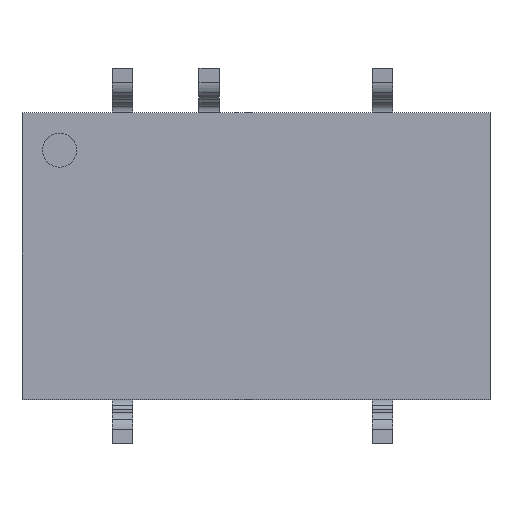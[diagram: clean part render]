
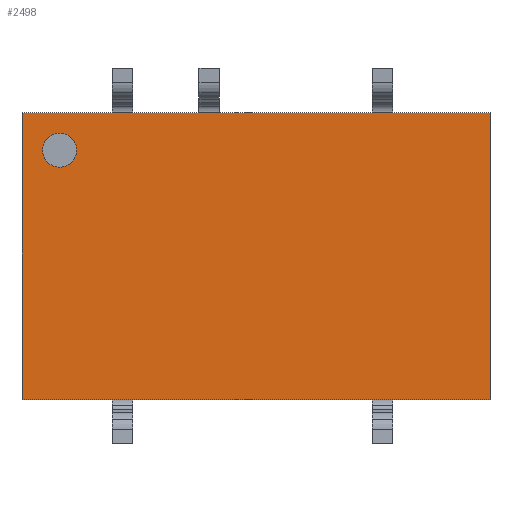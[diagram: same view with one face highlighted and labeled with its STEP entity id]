
A CAD part, top view. The second image highlights one B-rep face of the part: STEP entity #2498.
In plain terms, the highlighted planar face has unit normal (0, 0, 1) as drawn and (0, -1, 0) by its records, which use the part's own axes.
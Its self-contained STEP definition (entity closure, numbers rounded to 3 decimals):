
#96 = ORIENTED_EDGE ( 'NONE', *, *, #2722, .T. ) ;
#236 = LINE ( 'NONE', #2291, #1251 ) ;
#361 = DIRECTION ( 'NONE',  ( 1., 0., 0. ) ) ;
#488 = EDGE_CURVE ( 'NONE', #1287, #4318, #3800, .T. ) ;
#498 = DIRECTION ( 'NONE',  ( -1., 0., 0. ) ) ;
#593 = DIRECTION ( 'NONE',  ( 0., 0., -1. ) ) ;
#616 = CARTESIAN_POINT ( 'NONE',  ( 6.85, 0.3, -4.2 ) ) ;
#625 = VERTEX_POINT ( 'NONE', #4140 ) ;
#744 = FACE_BOUND ( 'NONE', #1282, .T. ) ;
#746 = AXIS2_PLACEMENT_3D ( 'NONE', #4382, #2761, #3430 ) ;
#834 = VECTOR ( 'NONE', #498, 1000. ) ;
#845 = AXIS2_PLACEMENT_3D ( 'NONE', #2801, #1083, #3115 ) ;
#875 = LINE ( 'NONE', #3565, #834 ) ;
#1071 = DIRECTION ( 'NONE',  ( 0., 1., 0. ) ) ;
#1077 = EDGE_CURVE ( 'NONE', #2572, #3345, #3881, .T. ) ;
#1083 = DIRECTION ( 'NONE',  ( 0., -1., 0. ) ) ;
#1123 = CARTESIAN_POINT ( 'NONE',  ( 6.85, 0.3, -4.2 ) ) ;
#1139 = DIRECTION ( 'NONE',  ( 1., 0., 0. ) ) ;
#1207 = DIRECTION ( 'NONE',  ( 0., 0., 1. ) ) ;
#1251 = VECTOR ( 'NONE', #593, 1000. ) ;
#1282 = EDGE_LOOP ( 'NONE', ( #1989, #96 ) ) ;
#1287 = VERTEX_POINT ( 'NONE', #4129 ) ;
#1376 = CARTESIAN_POINT ( 'NONE',  ( -6.85, 0.3, -4.2 ) ) ;
#1622 = EDGE_LOOP ( 'NONE', ( #3533, #2246, #2223, #2220 ) ) ;
#1701 = CARTESIAN_POINT ( 'NONE',  ( -6.25, 0.3, 3.1 ) ) ;
#1716 = LINE ( 'NONE', #1376, #2325 ) ;
#1774 = FACE_OUTER_BOUND ( 'NONE', #1622, .T. ) ;
#1864 = AXIS2_PLACEMENT_3D ( 'NONE', #3420, #1071, #361 ) ;
#1989 = ORIENTED_EDGE ( 'NONE', *, *, #488, .T. ) ;
#2220 = ORIENTED_EDGE ( 'NONE', *, *, #1077, .T. ) ;
#2223 = ORIENTED_EDGE ( 'NONE', *, *, #3693, .T. ) ;
#2246 = ORIENTED_EDGE ( 'NONE', *, *, #3902, .T. ) ;
#2291 = CARTESIAN_POINT ( 'NONE',  ( -6.85, 0.3, 4.2 ) ) ;
#2325 = VECTOR ( 'NONE', #1139, 1000. ) ;
#2485 = PLANE ( 'NONE',  #845 ) ;
#2498 = ADVANCED_FACE ( 'NONE', ( #744, #1774 ), #2485, .T. ) ;
#2572 = VERTEX_POINT ( 'NONE', #616 ) ;
#2722 = EDGE_CURVE ( 'NONE', #4318, #1287, #3103, .T. ) ;
#2761 = DIRECTION ( 'NONE',  ( 0., 1., 0. ) ) ;
#2796 = CARTESIAN_POINT ( 'NONE',  ( 6.85, 0.3, 4.2 ) ) ;
#2801 = CARTESIAN_POINT ( 'NONE',  ( 0., 0.3, 0. ) ) ;
#3103 = CIRCLE ( 'NONE', #746, 0.5 ) ;
#3115 = DIRECTION ( 'NONE',  ( 0., 0., 1. ) ) ;
#3345 = VERTEX_POINT ( 'NONE', #2796 ) ;
#3420 = CARTESIAN_POINT ( 'NONE',  ( -5.75, 0.3, 3.1 ) ) ;
#3430 = DIRECTION ( 'NONE',  ( 1., 0., 0. ) ) ;
#3487 = EDGE_CURVE ( 'NONE', #3345, #625, #875, .T. ) ;
#3510 = VECTOR ( 'NONE', #1207, 1000. ) ;
#3533 = ORIENTED_EDGE ( 'NONE', *, *, #3487, .T. ) ;
#3540 = VERTEX_POINT ( 'NONE', #3756 ) ;
#3565 = CARTESIAN_POINT ( 'NONE',  ( 6.85, 0.3, 4.2 ) ) ;
#3693 = EDGE_CURVE ( 'NONE', #3540, #2572, #1716, .T. ) ;
#3756 = CARTESIAN_POINT ( 'NONE',  ( -6.85, 0.3, -4.2 ) ) ;
#3800 = CIRCLE ( 'NONE', #1864, 0.5 ) ;
#3881 = LINE ( 'NONE', #1123, #3510 ) ;
#3902 = EDGE_CURVE ( 'NONE', #625, #3540, #236, .T. ) ;
#4129 = CARTESIAN_POINT ( 'NONE',  ( -5.25, 0.3, 3.1 ) ) ;
#4140 = CARTESIAN_POINT ( 'NONE',  ( -6.85, 0.3, 4.2 ) ) ;
#4318 = VERTEX_POINT ( 'NONE', #1701 ) ;
#4382 = CARTESIAN_POINT ( 'NONE',  ( -5.75, 0.3, 3.1 ) ) ;
